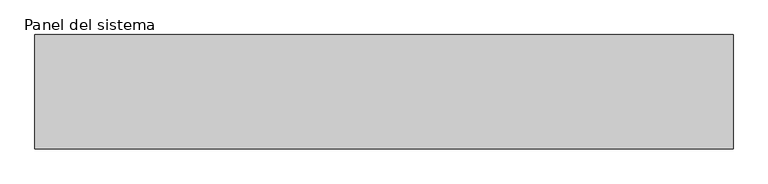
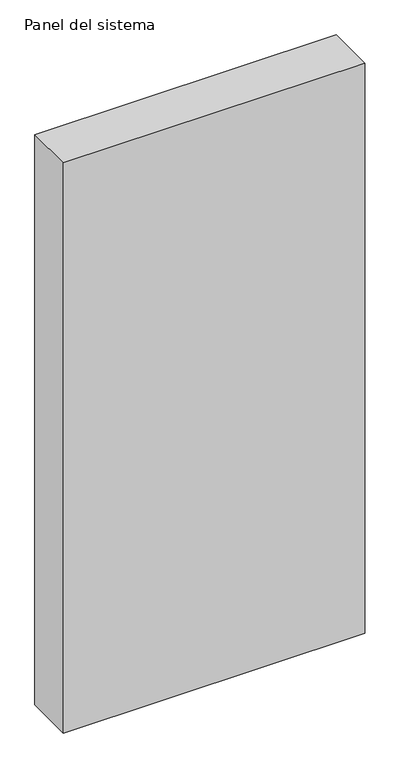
"""IFC4 building model written with IfcOpenShell, lengths in millimetres: plate geometry, Panel del sistema : Hiansa Panel - Fachada Panel FRIGO - 180mm."""

from ifc_helpers import new_model, si_unit, origin, origin_with_axes, place, context, project, spatial, polyline, outline, extrude, source, transform, mapped, element, save


def panel_del_sistema_94fc436b(model_context):
    return source(origin(), model_context, "Body", "SweptSolid", [
        extrude(outline(polyline([(550.0000002, -180.0), (-550.0000002, -180.0), (-550.0000002, 0.0), (550.0000002, 0.0), (550.0000002, -180.0)])), origin_with_axes(), (0.0, 0.0, 1.0), 2200.0),
    ])


if __name__ == "__main__":
    model = new_model("IFC4")
    model_context = context("Model", 3, world=origin())
    ifc_project = project(units=[si_unit("LENGTHUNIT", "METRE", prefix="MILLI")], contexts=[model_context])
    site = spatial("IfcSite", under=ifc_project)
    building = spatial("IfcBuilding", under=site)
    placement = place(None, origin())
    panel_del_sistema_shape = panel_del_sistema_94fc436b(model_context)
    element("IfcPlate", 1, ObjectType="Panel del sistema : Hiansa Panel - Fachada Panel FRIGO - 180mm", at=placement, inside=building, context=model_context, shape_type="MappedRepresentation", body=[
        mapped(panel_del_sistema_shape, transform((0.0, 0.0, 0.0), x_axis=(1.0, 0.0, 0.0), y_axis=(0.0, 1.0, 0.0), z_axis=(0.0, 0.0, 1.0))),
    ])
    save(model, "model.ifc")
